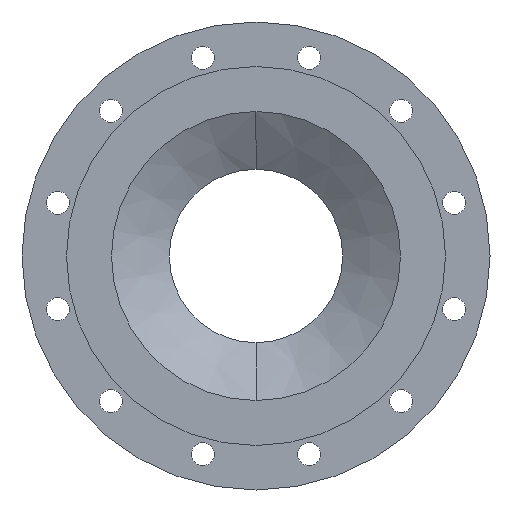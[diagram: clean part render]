
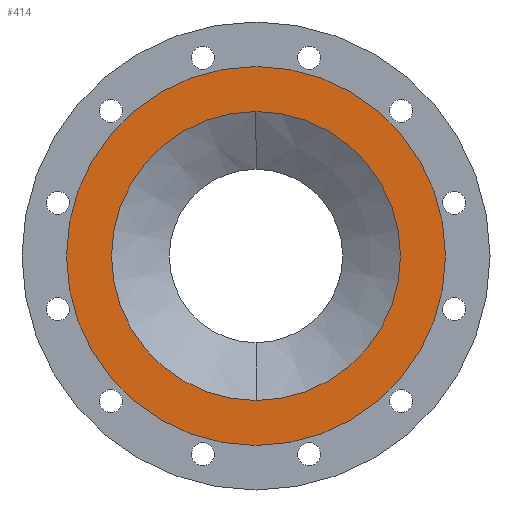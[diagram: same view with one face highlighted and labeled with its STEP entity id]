
A CAD part, left-side view. The second image highlights one B-rep face of the part: STEP entity #414.
In plain terms, the highlighted planar face has unit normal (-1, 0, 0).
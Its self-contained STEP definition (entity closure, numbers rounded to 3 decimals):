
#414=ADVANCED_FACE('',(#827,#828),#829,.F.);
#827=FACE_BOUND('',#1385,.T.);
#828=FACE_OUTER_BOUND('',#1386,.T.);
#829=PLANE('',#1387);
#1385=EDGE_LOOP('',(#2042,#2043));
#1386=EDGE_LOOP('',(#2044,#2045));
#1387=AXIS2_PLACEMENT_3D('',#2046,#2047,#2048);
#2042=ORIENTED_EDGE('',*,*,#3046,.T.);
#2043=ORIENTED_EDGE('',*,*,#3048,.T.);
#2044=ORIENTED_EDGE('',*,*,#3049,.F.);
#2045=ORIENTED_EDGE('',*,*,#3050,.F.);
#2046=CARTESIAN_POINT('',(0.0,0.0,0.));
#2047=DIRECTION('',(1.0,0.0,0.));
#2048=DIRECTION('',(0.,0.0,-1.0));
#3046=EDGE_CURVE('',#3610,#3614,#3616,.T.);
#3048=EDGE_CURVE('',#3614,#3610,#3618,.T.);
#3049=EDGE_CURVE('',#3619,#3620,#3621,.T.);
#3050=EDGE_CURVE('',#3620,#3619,#3622,.T.);
#3610=VERTEX_POINT('',#4356);
#3614=VERTEX_POINT('',#4361);
#3616=CIRCLE('',#4364,125.0);
#3618=CIRCLE('',#4366,125.0);
#3619=VERTEX_POINT('',#4367);
#3620=VERTEX_POINT('',#4368);
#3621=CIRCLE('',#4369,164.0);
#3622=CIRCLE('',#4370,164.0);
#4356=CARTESIAN_POINT('',(0.,0.0,-125.0));
#4361=CARTESIAN_POINT('',(0.,0.,125.0));
#4364=AXIS2_PLACEMENT_3D('',#5005,#5006,#5007);
#4366=AXIS2_PLACEMENT_3D('',#5008,#5009,#5010);
#4367=CARTESIAN_POINT('',(0.,0.0,-164.0));
#4368=CARTESIAN_POINT('',(0.,0.,164.0));
#4369=AXIS2_PLACEMENT_3D('',#5011,#5012,#5013);
#4370=AXIS2_PLACEMENT_3D('',#5014,#5015,#5016);
#5005=CARTESIAN_POINT('',(0.0,0.0,0.0));
#5006=DIRECTION('',(1.0,0.0,0.));
#5007=DIRECTION('',(0.,0.0,-1.0));
#5008=CARTESIAN_POINT('',(0.0,0.0,0.0));
#5009=DIRECTION('',(1.0,0.0,0.));
#5010=DIRECTION('',(0.,0.0,-1.0));
#5011=CARTESIAN_POINT('',(0.0,0.0,0.));
#5012=DIRECTION('',(1.0,0.0,0.));
#5013=DIRECTION('',(0.,0.0,-1.0));
#5014=CARTESIAN_POINT('',(0.0,0.0,0.));
#5015=DIRECTION('',(1.0,0.0,0.));
#5016=DIRECTION('',(0.,0.0,-1.0));
